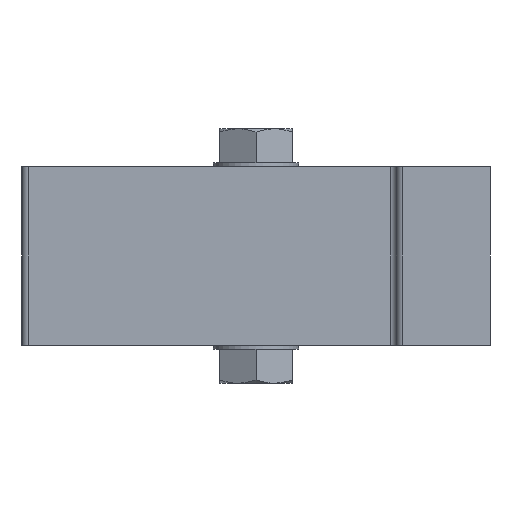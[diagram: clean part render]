
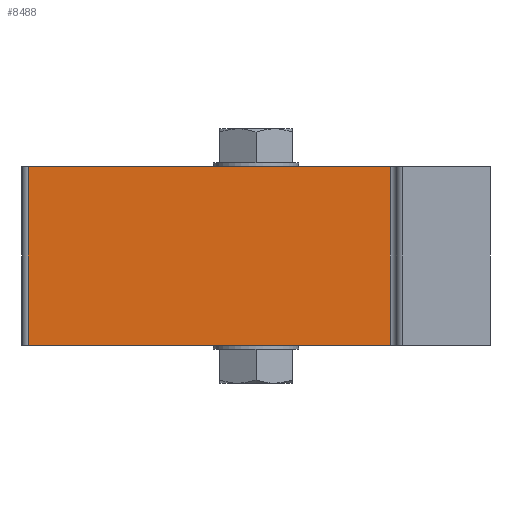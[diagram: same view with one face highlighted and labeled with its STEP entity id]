
A CAD part, left-side view. The second image highlights one B-rep face of the part: STEP entity #8488.
In plain terms, the highlighted planar face has unit normal (-1, 0, 0).
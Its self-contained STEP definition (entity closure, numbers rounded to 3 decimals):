
#7275=CARTESIAN_POINT('',(-55.,53.5,42.0));
#7276=VERTEX_POINT('',#7275);
#7284=CARTESIAN_POINT('',(-55.0,-31.5,42.0));
#7285=VERTEX_POINT('',#7284);
#7286=CARTESIAN_POINT('',(-55.0,-31.5,42.0));
#7287=DIRECTION('',(0.0,1.0,0.0));
#7288=VECTOR('',#7287,85.0);
#7289=LINE('',#7286,#7288);
#7290=EDGE_CURVE('',#7285,#7276,#7289,.T.);
#8446=CARTESIAN_POINT('',(-55.0,-31.5,0.0));
#8447=VERTEX_POINT('',#8446);
#8448=CARTESIAN_POINT('',(-55.0,-31.5,0.0));
#8449=DIRECTION('',(0.0,0.0,1.0));
#8450=VECTOR('',#8449,42.0);
#8451=LINE('',#8448,#8450);
#8452=EDGE_CURVE('',#8447,#7285,#8451,.T.);
#8465=CARTESIAN_POINT('',(-55.0,-31.5,0.0));
#8466=DIRECTION('',(-1.0,0.0,0.0));
#8467=DIRECTION('',(0.0,0.0,1.0));
#8468=AXIS2_PLACEMENT_3D('',#8465,#8466,#8467);
#8469=PLANE('',#8468);
#8470=ORIENTED_EDGE('',*,*,#7290,.T.);
#8471=CARTESIAN_POINT('',(-55.,53.5,0.0));
#8472=VERTEX_POINT('',#8471);
#8473=CARTESIAN_POINT('',(-55.,53.5,0.0));
#8474=DIRECTION('',(0.0,0.0,1.0));
#8475=VECTOR('',#8474,42.0);
#8476=LINE('',#8473,#8475);
#8477=EDGE_CURVE('',#8472,#7276,#8476,.T.);
#8478=ORIENTED_EDGE('',*,*,#8477,.F.);
#8479=CARTESIAN_POINT('',(-55.0,-31.5,0.0));
#8480=DIRECTION('',(0.0,1.0,0.0));
#8481=VECTOR('',#8480,85.0);
#8482=LINE('',#8479,#8481);
#8483=EDGE_CURVE('',#8447,#8472,#8482,.T.);
#8484=ORIENTED_EDGE('',*,*,#8483,.F.);
#8485=ORIENTED_EDGE('',*,*,#8452,.T.);
#8486=EDGE_LOOP('',(#8470,#8478,#8484,#8485));
#8487=FACE_OUTER_BOUND('',#8486,.T.);
#8488=ADVANCED_FACE('',(#8487),#8469,.T.);
